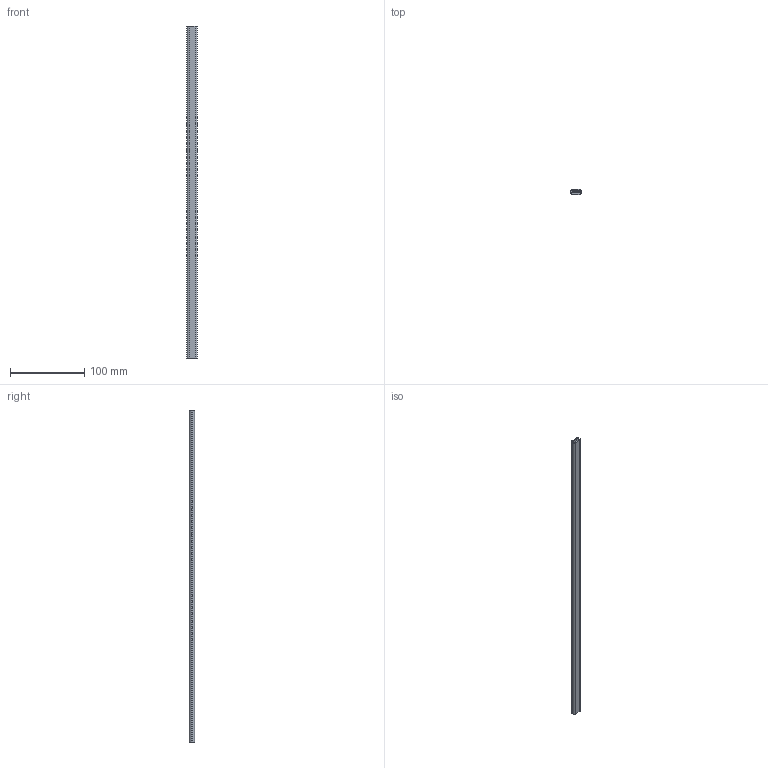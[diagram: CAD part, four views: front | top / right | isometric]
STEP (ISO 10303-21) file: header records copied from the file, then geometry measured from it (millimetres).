
FILE_DESCRIPTION(('Open CASCADE Model'),'2;1');
FILE_NAME('Open CASCADE Shape Model','2026-09-23T02:05:59',('Author'),( 'Open CASCADE'),'Open CASCADE STEP processor 7.7','Open CASCADE 7.7' ,'Unknown');
FILE_SCHEMA(('AUTOMOTIVE_DESIGN { 1 0 10303 214 1 1 1 1 }'));
Length unit declared in the file: millimetre
Products named in the file (1): Open CASCADE STEP translator 7.7 6
Bounding box: 13.83 x 7 x 448 mm (x, y, z)
Volume: 24557.8 mm3; surface area: 26814.5 mm2
Topology: 1 solids, 1 shells, 14 faces, 36 edges, 24 vertices
Faces by surface type: plane 8, cylinder 6
Entity records: 906 total; most frequent: CARTESIAN_POINT 187, DIRECTION 130, ORIENTED_EDGE 72, PCURVE 72, DEFINITIONAL_REPRESENTATION 72, LINE 68, VECTOR 68, EDGE_CURVE 36
